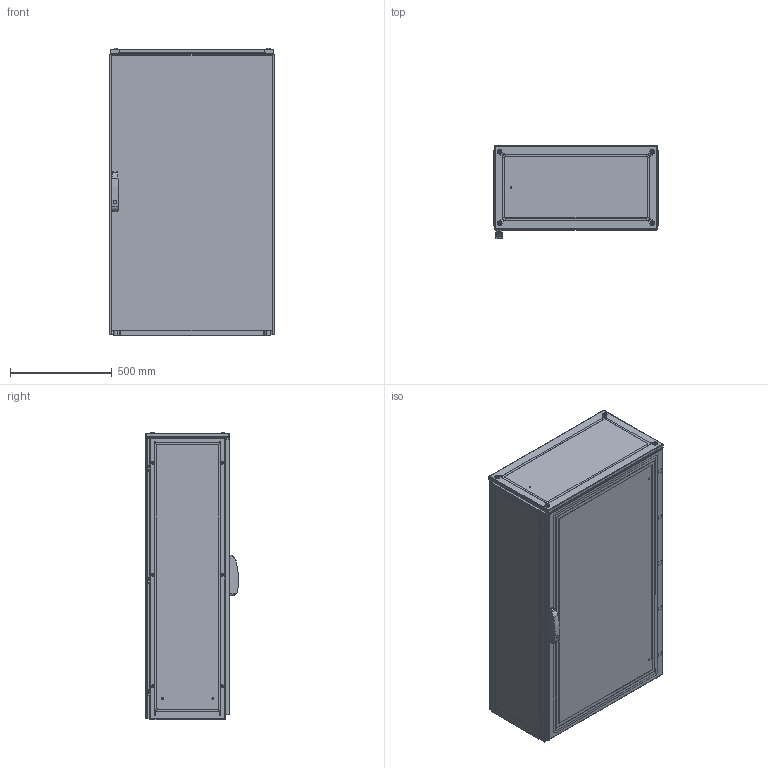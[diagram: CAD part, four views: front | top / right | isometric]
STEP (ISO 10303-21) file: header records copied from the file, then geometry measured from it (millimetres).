
FILE_DESCRIPTION(/* description */ ('STEP AP214'),/* implementation_level */ '2;1');
FILE_NAME(/* name */ 'ENUX081404PR-LOD350',/* time_stamp */ '2025-08-06T09:40:30+02:00',/* author */ ('License CC BY-ND 4.0'),/* organization */ ('CADENAS'),/* preprocessor_version */ 'ST-DEVELOPER v19.3',/* originating_system */ 'PARTsolutions',/* authorisation */ ' ');
FILE_SCHEMA (('AUTOMOTIVE_DESIGN {1 0 10303 214 3 1 1}'));
Length unit declared in the file: millimetre
Products named in the file (10): ENUX081404PR-LOD350; ENUX081404PR-LOD350_CON; ENUX081404PR-LOD350_floor1; ENUX081404PR-LOD350_floor2; Screw M12x30 architecture 350; ENUX081404PR-LOD350_side; ENUX081404PR-LOD350_top; ENUX081404PR-LOD350_back_door; ENUX081404PR-LOD350_door; ENUX081404PR-LOD350_handle
Assembly tree (14 placements, depth 2):
  ENUX081404PR-LOD350
    ENUX081404PR-LOD350_CON
    ENUX081404PR-LOD350_floor1  x2
    ENUX081404PR-LOD350_floor2
    Screw M12x30 architecture 350  x4
    ENUX081404PR-LOD350_side  x2
    ENUX081404PR-LOD350_top
    ENUX081404PR-LOD350_back_door
    ENUX081404PR-LOD350_door
    ENUX081404PR-LOD350_handle
Bounding box: 812 x 457 x 1414.1 mm (x, y, z)
Volume: 16249601.4 mm3; surface area: 12326546.5 mm2
Topology: 14 solids, 14 shells, 1578 faces, 4417 edges, 2880 vertices
Faces by surface type: plane 784, cylinder 639, cone 71, torus 68, sphere 16
Full cylindrical faces by diameter (mm): 4.5 x108, 6 x14, 6.8 x8, 9 x9, 12 x16, 13 x4, 18 x1, 21 x4
Entity records: 43091 total; most frequent: CARTESIAN_POINT 7483, DIRECTION 7453, ORIENTED_EDGE 7008, EDGE_CURVE 3504, AXIS2_PLACEMENT_3D 2652, VERTEX_POINT 2441, LINE 2149, VECTOR 2149
